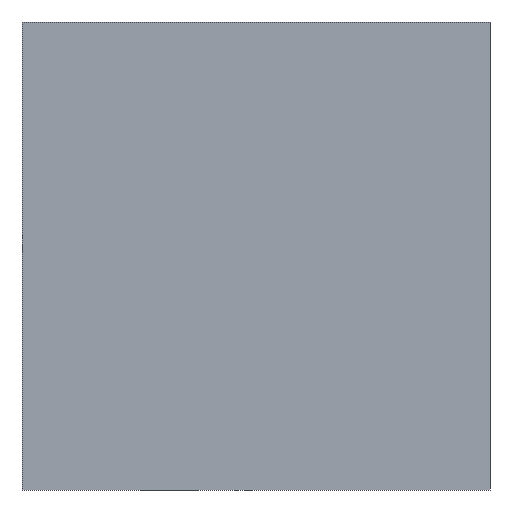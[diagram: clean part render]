
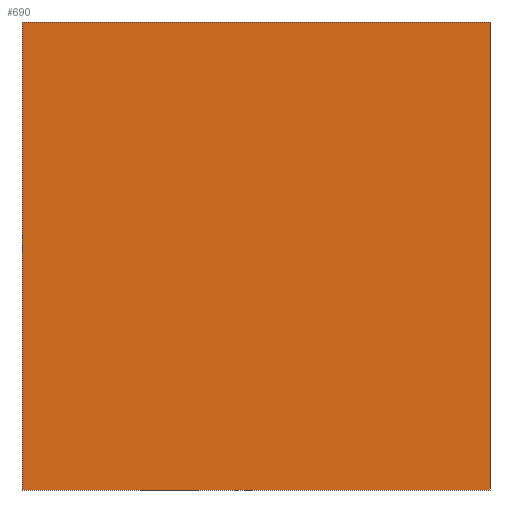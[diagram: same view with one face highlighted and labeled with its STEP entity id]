
A CAD part, front view. The second image highlights one B-rep face of the part: STEP entity #690.
In plain terms, the highlighted planar face has unit normal (0, -1, 0).
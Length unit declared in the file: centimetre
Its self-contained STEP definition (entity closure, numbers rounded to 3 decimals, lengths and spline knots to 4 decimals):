
#18 = FACE_OUTER_BOUND ( 'NONE', #336, .T. ) ;
#106 = VERTEX_POINT ( 'NONE', #396 ) ;
#131 = LINE ( 'NONE', #330, #140 ) ;
#140 = VECTOR ( 'NONE', #182, 100. ) ;
#182 = DIRECTION ( 'NONE',  ( 0., 0., -1. ) ) ;
#199 = LINE ( 'NONE', #530, #206 ) ;
#206 = VECTOR ( 'NONE', #252, 100. ) ;
#209 = VERTEX_POINT ( 'NONE', #570 ) ;
#238 = EDGE_CURVE ( 'NONE', #594, #106, #558, .T. ) ;
#252 = DIRECTION ( 'NONE',  ( 1., 0., 0. ) ) ;
#294 = CARTESIAN_POINT ( 'NONE',  ( 0., 0., 1000. ) ) ;
#310 = DIRECTION ( 'NONE',  ( 0., 0., -1. ) ) ;
#330 = CARTESIAN_POINT ( 'NONE',  ( 1000., 0., 1000. ) ) ;
#336 = EDGE_LOOP ( 'NONE', ( #372, #556, #468, #484 ) ) ;
#348 = CARTESIAN_POINT ( 'NONE',  ( 0., 0., 0. ) ) ;
#372 = ORIENTED_EDGE ( 'NONE', *, *, #238, .T. ) ;
#379 = LINE ( 'NONE', #702, #633 ) ;
#396 = CARTESIAN_POINT ( 'NONE',  ( 1000., 0., 0. ) ) ;
#422 = EDGE_CURVE ( 'NONE', #695, #209, #199, .T. ) ;
#465 = EDGE_CURVE ( 'NONE', #695, #594, #379, .T. ) ;
#468 = ORIENTED_EDGE ( 'NONE', *, *, #422, .F. ) ;
#484 = ORIENTED_EDGE ( 'NONE', *, *, #465, .T. ) ;
#513 = CARTESIAN_POINT ( 'NONE',  ( 0., 0., 1000. ) ) ;
#517 = DIRECTION ( 'NONE',  ( 0., 0., 1. ) ) ;
#530 = CARTESIAN_POINT ( 'NONE',  ( 0., 0., 1000. ) ) ;
#556 = ORIENTED_EDGE ( 'NONE', *, *, #662, .F. ) ;
#558 = LINE ( 'NONE', #348, #697 ) ;
#570 = CARTESIAN_POINT ( 'NONE',  ( 1000., 0., 1000. ) ) ;
#571 = DIRECTION ( 'NONE',  ( 0., 1., 0. ) ) ;
#574 = PLANE ( 'NONE',  #698 ) ;
#594 = VERTEX_POINT ( 'NONE', #619 ) ;
#619 = CARTESIAN_POINT ( 'NONE',  ( 0., 0., 0. ) ) ;
#633 = VECTOR ( 'NONE', #310, 100. ) ;
#662 = EDGE_CURVE ( 'NONE', #209, #106, #131, .T. ) ;
#680 = DIRECTION ( 'NONE',  ( 1., 0., 0. ) ) ;
#690 = ADVANCED_FACE ( 'NONE', ( #18 ), #574, .F. ) ;
#695 = VERTEX_POINT ( 'NONE', #513 ) ;
#697 = VECTOR ( 'NONE', #680, 100. ) ;
#698 = AXIS2_PLACEMENT_3D ( 'NONE', #294, #571, #517 ) ;
#702 = CARTESIAN_POINT ( 'NONE',  ( 0., 0., 1000. ) ) ;
